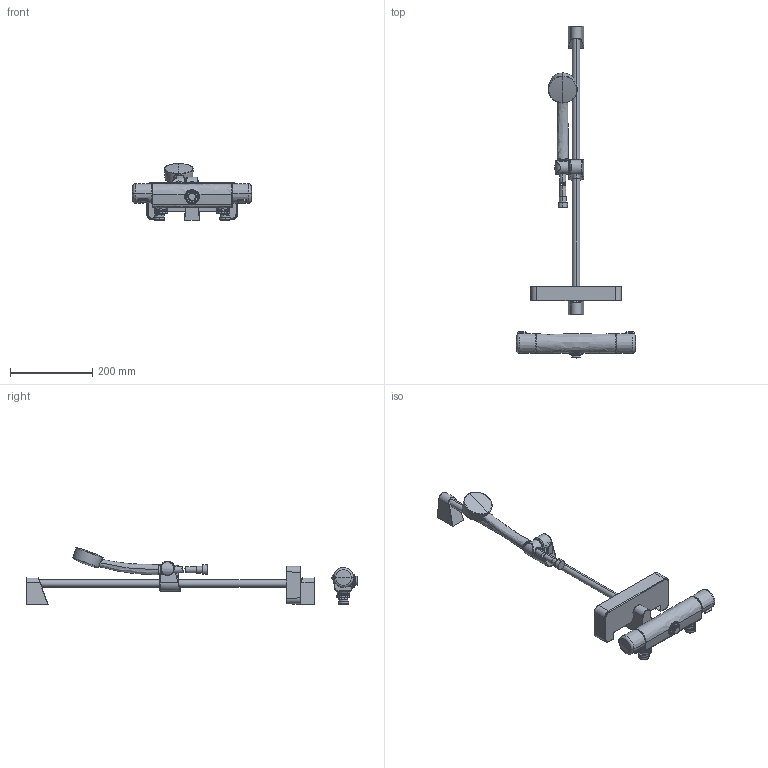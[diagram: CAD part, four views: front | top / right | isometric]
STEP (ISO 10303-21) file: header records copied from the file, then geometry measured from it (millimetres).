
FILE_DESCRIPTION (( 'STEP AP203' ), '1' );
FILE_NAME ('7427(2016).STEP', '2017-11-16T12:13:29', ( '' ), ( '' ), 'SwSTEP 2.0', 'SolidWorks 2016', '' );
FILE_SCHEMA (( 'CONFIG_CONTROL_DESIGN' ));
Length unit declared in the file: millimetre
Products named in the file (1): 7427(2016)
Bounding box: 289.8 x 805.9 x 137.73 mm (x, y, z)
Volume: 1471957.3 mm3; surface area: 254667.9 mm2
Topology: 19 solids, 19 shells, 448 faces, 1017 edges, 613 vertices
Faces by surface type: cylinder 132, plane 102, bspline 97, cone 65, torus 36, sphere 16
Entity records: 25585 total; most frequent: CARTESIAN_POINT 16273, ORIENTED_EDGE 2022, DIRECTION 1790, EDGE_CURVE 1011, AXIS2_PLACEMENT_3D 737, VERTEX_POINT 611, EDGE_LOOP 462, ADVANCED_FACE 448
